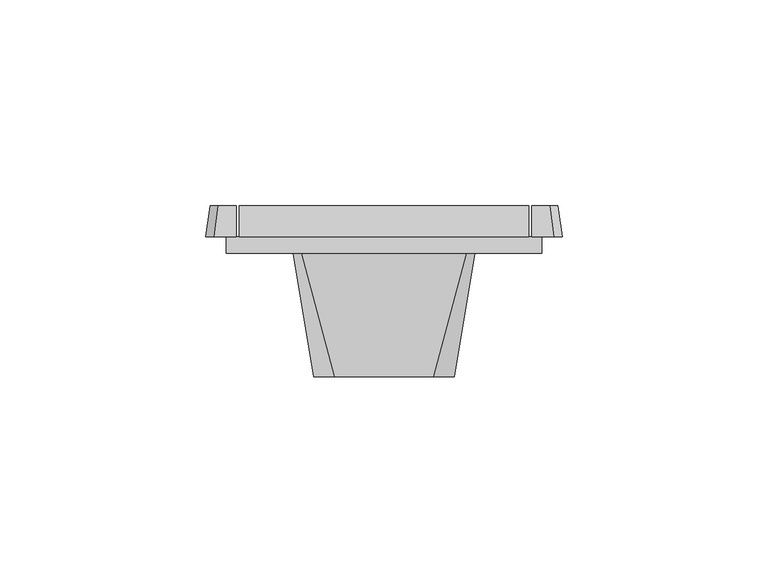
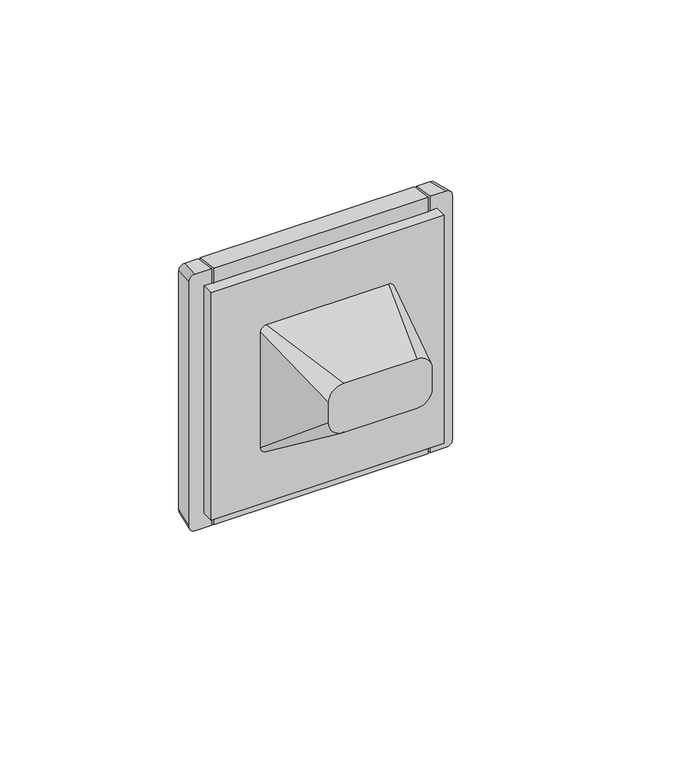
"""IFC4 building model written with IfcOpenShell, lengths in millimetres: proxy geometry, IEK_Forte&Piano_Розекта 1гн : 230 В PE+шт._FP113."""

import ifcopenshell
import ifcopenshell.guid

model = None  # the IFC model being written
_history = None  # IfcOwnerHistory: only IFC2X3 demands one
_inside = {}  # id of a spatial element -> (the spatial element, [elements in it])
_under = {}  # id of a project, library or spatial element -> (it, [spatial elements below it])
_declared = {}  # id of a project -> (the project, [libraries it declares])
_typed = {}  # id of a type object -> (the type object, [elements of that type])
_made_of = {}  # id of a material, layer set ... -> (it, [elements and type objects made of it])


def new_model(schema):
    """Start an empty IFC model of exactly this schema.

    Asked for "IFC4X3", IfcOpenShell would pick the latest addendum, in which some entities
    have other attributes; the version numbers below select the first issue.
    IFC2X3 requires an IfcOwnerHistory on every rooted entity: one is made here for all.
    """
    global model, _history
    if schema == "IFC4X3":
        model = ifcopenshell.file(schema_version=(4, 3, 0, 0))
    else:
        model = ifcopenshell.file(schema=schema)
    _inside.clear()
    _under.clear()
    _declared.clear()
    _typed.clear()
    _made_of.clear()
    _history = None
    if model.schema == "IFC2X3":
        org = make("IfcOrganization", Name="unknown")
        user = make(
            "IfcPersonAndOrganization",
            ThePerson=make("IfcPerson", FamilyName="unknown"),
            TheOrganization=org,
        )
        app = make(
            "IfcApplication",
            ApplicationDeveloper=org,
            Version="unknown",
            ApplicationFullName="unknown",
            ApplicationIdentifier="unknown",
        )
        _history = make(
            "IfcOwnerHistory",
            OwningUser=user,
            OwningApplication=app,
            ChangeAction="ADDED",
            CreationDate=0,
        )
    return model


def make(cls, **values):
    """One entity of the class cls with the attributes given. An attribute that is None is left unset."""
    return model.create_entity(
        cls, **{name: value for name, value in values.items() if value is not None}
    )


def rooted(cls, **values):
    """An entity with a GlobalId (a new one), such as an element, a storey or a relation."""
    return make(cls, GlobalId=ifcopenshell.guid.new(), OwnerHistory=_history, **values)


def si_unit(unit_type, name, prefix=None):
    """IfcSIUnit, for example si_unit("LENGTHUNIT", "METRE", prefix="MILLI")."""
    return make("IfcSIUnit", UnitType=unit_type, Prefix=prefix, Name=name)


def assignment(units):
    """IfcUnitAssignment: the units of a project."""
    return None if units is None else make("IfcUnitAssignment", Units=units)


def point(xyz):
    """IfcCartesianPoint."""
    return None if xyz is None else make("IfcCartesianPoint", Coordinates=xyz)


def direction(xyz):
    """IfcDirection."""
    return None if xyz is None else make("IfcDirection", DirectionRatios=xyz)


def frame(location, z_axis=None, x_axis=None):
    """IfcAxis2Placement3D, a coordinate frame: its origin and axes. An axis left out is left unset."""
    return make(
        "IfcAxis2Placement3D",
        Location=point(location),
        Axis=direction(z_axis),
        RefDirection=direction(x_axis),
    )


def frame_2d(location, x_axis=None):
    """IfcAxis2Placement2D, a coordinate frame in the plane: its origin and x axis."""
    return make(
        "IfcAxis2Placement2D", Location=point(location), RefDirection=direction(x_axis)
    )


def origin():
    """The frame at (0, 0, 0) with its axes left unset."""
    return frame((0.0, 0.0, 0.0))


def origin_2d():
    """The frame at (0, 0) in the plane with its x axis left unset."""
    return frame_2d((0.0, 0.0))


def place(relative_to, where):
    """IfcLocalPlacement: puts the frame where relative to a parent placement (None: the world)."""
    return make(
        "IfcLocalPlacement", PlacementRelTo=relative_to, RelativePlacement=where
    )


def context(
    kind, dimensions, precision=None, world=None, true_north=None, identifier=None
):
    """IfcGeometricRepresentationContext, for example the 3D "Model" context."""
    return make(
        "IfcGeometricRepresentationContext",
        ContextIdentifier=identifier,
        ContextType=kind,
        CoordinateSpaceDimension=dimensions,
        Precision=precision,
        WorldCoordinateSystem=world,
        TrueNorth=true_north,
    )


def project(units=None, contexts=None):
    """IfcProject with its units and contexts."""
    return rooted(
        "IfcProject",
        Name="project",
        RepresentationContexts=contexts,
        UnitsInContext=assignment(units),
    )


def spatial(cls, under=None, at=None, **own):
    """A site, building, storey or space (cls), placed at a placement, below another one or the project."""
    s = rooted(cls, ObjectPlacement=at, **own)
    if under is not None:
        _under.setdefault(under.id(), (under, []))[1].append(s)
    return s


def polyline(points):
    """IfcPolyline through the points."""
    return make("IfcPolyline", Points=[point(p) for p in points])


def circle_curve(where, radius):
    """IfcCircle in the frame where."""
    return make("IfcCircle", Position=where, Radius=radius)


def ellipse_curve(where, semi_axis1, semi_axis2):
    """IfcEllipse in the frame where."""
    return make(
        "IfcEllipse", Position=where, SemiAxis1=semi_axis1, SemiAxis2=semi_axis2
    )


def trimmed(basis, trim1, trim2, sense, master):
    """IfcTrimmedCurve: the piece of a basis curve between two trims."""
    return make(
        "IfcTrimmedCurve",
        BasisCurve=basis,
        Trim1=trim1,
        Trim2=trim2,
        SenseAgreement=sense,
        MasterRepresentation=master,
    )


def segment(curve, same_sense, transition):
    """IfcCompositeCurveSegment."""
    return make(
        "IfcCompositeCurveSegment",
        Transition=transition,
        SameSense=same_sense,
        ParentCurve=curve,
    )


def composite_curve(segments, self_intersect=None):
    """IfcCompositeCurve: segments joined end to end."""
    return make("IfcCompositeCurve", Segments=segments, SelfIntersect=self_intersect)


def outline(outer, holes=None, kind="AREA"):
    """IfcArbitraryClosedProfileDef: a profile drawn as a closed curve; with holes, ...WithVoids."""
    if holes is None:
        return make("IfcArbitraryClosedProfileDef", ProfileType=kind, OuterCurve=outer)
    return make(
        "IfcArbitraryProfileDefWithVoids",
        ProfileType=kind,
        OuterCurve=outer,
        InnerCurves=holes,
    )


def extrude(swept, where, along, depth):
    """IfcExtrudedAreaSolid: the profile swept, set in the frame where, extruded along a direction by depth."""
    return make(
        "IfcExtrudedAreaSolid",
        SweptArea=swept,
        Position=where,
        ExtrudedDirection=direction(along),
        Depth=depth,
    )


def shape(context_of_items, identifier, shape_type, items):
    """IfcShapeRepresentation: the items that make up one representation, for example the "Body"."""
    return make(
        "IfcShapeRepresentation",
        ContextOfItems=context_of_items,
        RepresentationIdentifier=identifier,
        RepresentationType=shape_type,
        Items=items,
    )


def source(mapping_origin, context_of_items, identifier, shape_type, items):
    """IfcRepresentationMap: a shape defined once, which mapped items show again and again."""
    return make(
        "IfcRepresentationMap",
        MappingOrigin=mapping_origin,
        MappedRepresentation=shape(context_of_items, identifier, shape_type, items),
    )


def transform(
    local_origin,
    x_axis=None,
    y_axis=None,
    z_axis=None,
    scale=None,
    scale2=None,
    scale3=None,
    uniform=True,
):
    """IfcCartesianTransformationOperator3D, or its non-uniform kind. x_axis, y_axis, z_axis: its Axis1, 2, 3."""
    if uniform:
        return make(
            "IfcCartesianTransformationOperator3D",
            Axis1=direction(x_axis),
            Axis2=direction(y_axis),
            LocalOrigin=point(local_origin),
            Scale=scale,
            Axis3=direction(z_axis),
        )
    return make(
        "IfcCartesianTransformationOperator3DnonUniform",
        Axis1=direction(x_axis),
        Axis2=direction(y_axis),
        LocalOrigin=point(local_origin),
        Scale=scale,
        Axis3=direction(z_axis),
        Scale2=scale2,
        Scale3=scale3,
    )


def mapped(mapping_source, mapping_target):
    """IfcMappedItem: shows the shape of a source again, moved by a transform."""
    return make(
        "IfcMappedItem", MappingSource=mapping_source, MappingTarget=mapping_target
    )


def made_of(thing, what):
    """Note that an element or type object is made of a material, layer set ...; save() writes the relation."""
    if what is not None:
        _made_of.setdefault(what.id(), (what, []))[1].append(thing)
    return thing


def element(
    cls,
    number,
    at=None,
    inside=None,
    cuts=None,
    type_object=None,
    material=None,
    context=None,
    identifier="Body",
    shape_type=None,
    held_by="IfcProductDefinitionShape",
    body=None,
    shapes=None,
    **own,
):
    """One element of the class cls, such as IfcWall. Its Tag is "e" and its number.

    at: its placement. inside: the storey or other place that contains it. cuts: it is an
    opening in that element (IfcRelVoidsElement). A single representation is given by context,
    identifier, shape_type and body (its items); several are given by shapes. held_by: the class
    of the entity that holds the representations. save() writes the other relations.
    """
    e = rooted(cls, Tag="e%d" % number, ObjectPlacement=at, **own)
    if body is not None:
        shapes = [shape(context, identifier, shape_type, body)]
    if shapes is not None:
        e.Representation = make(held_by, Representations=shapes)
    if inside is not None:
        _inside.setdefault(inside.id(), (inside, []))[1].append(e)
    if cuts is not None:
        rooted(
            "IfcRelVoidsElement", RelatingBuildingElement=cuts, RelatedOpeningElement=e
        )
    if type_object is not None:
        _typed.setdefault(type_object.id(), (type_object, []))[1].append(e)
    return made_of(e, material)


def aggregate(whole, parts):
    """IfcRelAggregates: a whole, such as a stair, and the parts it consists of."""
    return rooted("IfcRelAggregates", RelatingObject=whole, RelatedObjects=parts)


def save(model, path):
    """Write the relations noted so far, then the file.

    IfcRelAggregates (storeys below a building ...), IfcRelContainedInSpatialStructure (elements
    in a storey), IfcRelDefinesByType, IfcRelAssociatesMaterial and IfcRelDeclares: one each for
    every whole, place, type object, material and project.
    """
    for whole, parts in _under.values():
        aggregate(whole, parts)
    for where, things in _inside.values():
        rooted(
            "IfcRelContainedInSpatialStructure",
            RelatedElements=things,
            RelatingStructure=where,
        )
    for kind, things in _typed.values():
        rooted("IfcRelDefinesByType", RelatedObjects=things, RelatingType=kind)
    for what, things in _made_of.values():
        rooted("IfcRelAssociatesMaterial", RelatedObjects=things, RelatingMaterial=what)
    for by, libraries in _declared.values():
        rooted("IfcRelDeclares", RelatingContext=by, RelatedDefinitions=libraries)
    model.write(path)


def plane_surface(at):
    """IfcPlane: the flat surface through the origin of the frame at, square to its z axis."""
    return make("IfcPlane", Position=at)


def cylinder_surface(at, radius):
    """IfcCylindricalSurface: all points at the distance radius from the z axis of the frame at."""
    return make("IfcCylindricalSurface", Position=at, Radius=radius)


def revolved_surface(curve, axis_point, axis_direction):
    """IfcSurfaceOfRevolution: the curve turned about the line through axis_point along axis_direction."""
    return make(
        "IfcSurfaceOfRevolution",
        SweptCurve=make("IfcArbitraryOpenProfileDef", ProfileType="CURVE", Curve=curve),
        AxisPosition=make("IfcAxis1Placement", Location=point(axis_point), Axis=direction(axis_direction)),
    )


def extruded_surface(curve, direction_of_extrusion, depth):
    """IfcSurfaceOfLinearExtrusion: the curve pushed along a direction by depth."""
    return make(
        "IfcSurfaceOfLinearExtrusion",
        SweptCurve=make("IfcArbitraryOpenProfileDef", ProfileType="CURVE", Curve=curve),
        ExtrudedDirection=direction(direction_of_extrusion),
        Depth=depth,
    )


def spline_surface(u_degree, v_degree, points, u_multiplicities, v_multiplicities, u_knots, v_knots, weights=None):
    """IfcBSplineSurfaceWithKnots; with weights, IfcRationalBSplineSurfaceWithKnots. points: one row for each step in u."""
    own = dict(
        UDegree=u_degree,
        VDegree=v_degree,
        ControlPointsList=[[point(p) for p in row] for row in points],
        SurfaceForm="UNSPECIFIED",
        UClosed=False,
        VClosed=False,
        SelfIntersect=False,
        UMultiplicities=u_multiplicities,
        VMultiplicities=v_multiplicities,
        UKnots=u_knots,
        VKnots=v_knots,
        KnotSpec="UNSPECIFIED",
    )
    if weights is None:
        return make("IfcBSplineSurfaceWithKnots", **own)
    return make("IfcRationalBSplineSurfaceWithKnots", WeightsData=weights, **own)


def advanced_brep(points, edges, surfaces, faces):
    """IfcAdvancedBrep: a solid bounded by faces that lie on surfaces and meet in shared edges.

    An edge is (start, end): straight between two places in points (the first is 0);
    or (start, end, curve); or (start, end, curve, False) where it runs against its curve.
    A face is (place in surfaces, loops), or (place, loops, False) where it looks against
    its surface's normal. A loop lists edges by number (the first is 1), with a minus sign
    where the edge is run from its end to its start. The first loop is the outer one.
    """
    corners = [point(p) for p in points]
    vertices = [make("IfcVertexPoint", VertexGeometry=c) for c in corners]
    made = []
    for start, end, *more in edges:
        made.append(
            make(
                "IfcEdgeCurve",
                EdgeStart=vertices[start],
                EdgeEnd=vertices[end],
                EdgeGeometry=more[0] if more else make("IfcPolyline", Points=[corners[start], corners[end]]),
                SameSense=more[1] if len(more) > 1 else True,
            )
        )
    hull = []
    for where, loops, *sense in faces:
        bounds = []
        for j, loop in enumerate(loops):
            ring = [make("IfcOrientedEdge", EdgeElement=made[abs(k) - 1], Orientation=k > 0) for k in loop]
            bounds.append(
                make(
                    "IfcFaceOuterBound" if j == 0 else "IfcFaceBound",
                    Bound=make("IfcEdgeLoop", EdgeList=ring),
                    Orientation=True,
                )
            )
        hull.append(make("IfcAdvancedFace", Bounds=bounds, FaceSurface=surfaces[where], SameSense=sense[0] if sense else True))
    return make("IfcAdvancedBrep", Outer=make("IfcClosedShell", CfsFaces=hull))


def electrical_fixtures_768afa44(model_context):
    return source(origin(), model_context, "Body", "SolidModel", [
        extrude(outline(composite_curve([segment(trimmed(circle_curve(frame_2d((6.4251956, 19.2322549)), 1.2539127), [point((7.6710794, 19.3739261))], [point((5.5330873, 18.3510967))], False, "CARTESIAN"), True, "CONTINUOUS"), segment(polyline([(5.5330873, 18.3510967), (-1.7, 17.5095674), (-1.7, 18.7042816), (7.6710794, 19.3739261)]), True, "CONTINUOUS")], self_intersect=False)), frame((-1.5, 0.0, 0.0), z_axis=(1.0, 0.0, 0.0), x_axis=(0.0, 1.0, 0.0)), (0.0, 0.0, 1.0), 3.0),
        extrude(outline(composite_curve([segment(polyline([(7.6710794, -19.3739261), (-1.7, -18.7042816), (-1.7, -17.5095674), (5.5330873, -18.3510967)]), True, "CONTINUOUS"), segment(trimmed(circle_curve(frame_2d((6.4251956, -19.2322549)), 1.2539127), [point((5.5330873, -18.3510967))], [point((7.6710794, -19.3739261))], False, "CARTESIAN"), True, "CONTINUOUS")], self_intersect=False)), frame((-1.5, 0.0, 0.0), z_axis=(1.0, 0.0, 0.0), x_axis=(0.0, 1.0, 0.0)), (0.0, 0.0, 1.0), 3.0),
        advanced_brep(
        [(-12.0, -30.0, 17.0), (-17.0, -30.0, 12.0), (-17.0, -30.0, 5.0), (-12.0, -30.0, 0.0), (12.0, -30.0, 0.0), (17.0, -30.0, 5.0), (17.0, -30.0, 12.0), (12.0, -30.0, 17.0), (-20.0, 0.0, 22.0), (20.0, 0.0, 22.0), (22.0, 0.0, 20.0), (22.0, 0.0, -20.0), (20.0, 0.0, -22.0), (-20.0, 0.0, -22.0), (-22.0, 0.0, -20.0), (-22.0, 0.0, 20.0), (11.8753617, 0.0, 0.0), (6.3904783, 0.0, 0.0), (-6.3904783, 0.0, 0.0), (-11.8753617, 0.0, 0.0), (3.0105286, 0.0, 0.0), (-3.0105286, 0.0, 0.0), (1.5, 0.0, 19.3739261), (-1.5, 0.0, 19.3739261), (-1.5, 0.0, 17.5095674), (1.5, 0.0, 17.5095674), (1.5, 0.0, -19.3739261), (1.5, 0.0, -17.5095674), (-1.5, 0.0, -17.5095674), (-1.5, 0.0, -19.3739261), (1.5, -6.1233172, -17.5095674), (1.5, -3.5810099, -19.3739261), (-1.5, -3.5810099, -19.3739261), (-1.5, -6.1233172, -17.5095674), (11.8753617, -10.5003369, 0.0), (6.3904783, -10.5003369, 0.0), (-6.3904783, -10.5003369, 0.0), (-11.8753617, -10.5003369, 0.0), (3.0105286, -10.5003369, 0.0), (-3.0105286, -10.5003369, 0.0), (1.5, -10.5003369, 19.3739261), (1.5, -10.5003369, 17.5095674), (-1.5, -10.5003369, 17.5095674), (-1.5, -10.5003369, 19.3739261)],
        [
            (0, 1, circle_curve(frame((-12.0, -30.0, 12.0), z_axis=(0.0, -1.0, 0.0), x_axis=(1.0, 0.0, 0.0)), 5.0)),
            (1, 2),
            (2, 3, circle_curve(frame((-12.0, -30.0, 5.0), z_axis=(0.0, -1.0, 0.0), x_axis=(1.0, 0.0, 0.0)), 5.0)),
            (3, 4),
            (4, 5, circle_curve(frame((12.0, -30.0, 5.0), z_axis=(0.0, -1.0, 0.0), x_axis=(1.0, 0.0, 0.0)), 5.0)),
            (5, 6),
            (6, 7, circle_curve(frame((12.0, -30.0, 12.0), z_axis=(0.0, -1.0, 0.0), x_axis=(1.0, 0.0, 0.0)), 5.0)),
            (7, 0),
            (8, 9),
            (9, 10, circle_curve(frame((20.0, 0.0, 20.0), z_axis=(0.0, 1.0, 0.0), x_axis=(1.0, 0.0, 0.0)), 2.0)),
            (10, 11),
            (11, 12, circle_curve(frame((20.0, 0.0, -20.0), z_axis=(0.0, 1.0, 0.0), x_axis=(1.0, 0.0, 0.0)), 2.0)),
            (12, 13),
            (13, 14, circle_curve(frame((-20.0, 0.0, -20.0), z_axis=(0.0, 1.0, 0.0), x_axis=(1.0, 0.0, 0.0)), 2.0)),
            (14, 15),
            (15, 8, circle_curve(frame((-20.0, 0.0, 20.0), z_axis=(0.0, 1.0, 0.0), x_axis=(1.0, 0.0, 0.0)), 2.0)),
            (16, 17, circle_curve(frame((9.13292, 0.0, 0.0), z_axis=(0.0, -1.0, 0.0), x_axis=(-1.0, 0.0, 0.0)), 2.7424417)),
            (17, 16, circle_curve(frame((9.13292, 0.0, 0.0), z_axis=(0.0, -1.0, 0.0), x_axis=(-1.0, 0.0, 0.0)), 2.7424417)),
            (18, 19, circle_curve(frame((-9.13292, 0.0, 0.0), z_axis=(0.0, -1.0, 0.0), x_axis=(-1.0, 0.0, 0.0)), 2.7424417)),
            (19, 18, circle_curve(frame((-9.13292, 0.0, 0.0), z_axis=(0.0, -1.0, 0.0), x_axis=(-1.0, 0.0, 0.0)), 2.7424417)),
            (20, 21, circle_curve(frame((0.0, 0.0, 0.0), z_axis=(0.0, -1.0, 0.0), x_axis=(-1.0, 0.0, 0.0)), 3.0105286)),
            (21, 20, circle_curve(frame((0.0, 0.0, 0.0), z_axis=(0.0, -1.0, 0.0), x_axis=(-1.0, 0.0, 0.0)), 3.0105286)),
            (22, 23),
            (23, 24),
            (24, 25),
            (25, 22),
            (26, 27),
            (27, 28),
            (28, 29),
            (29, 26),
            (7, 9),
            (8, 0),
            (6, 10),
            (5, 11),
            (4, 12),
            (3, 13),
            (30, 31),
            (31, 32),
            (32, 33),
            (33, 30),
            (2, 14),
            (1, 15),
            (34, 35, circle_curve(frame((9.13292, -10.5003369, 0.0), z_axis=(0.0, 1.0, 0.0), x_axis=(-1.0, 0.0, 0.0)), 2.7424417)),
            (35, 34, circle_curve(frame((9.13292, -10.5003369, 0.0), z_axis=(0.0, 1.0, 0.0), x_axis=(-1.0, 0.0, 0.0)), 2.7424417)),
            (36, 37, circle_curve(frame((-9.13292, -10.5003369, 0.0), z_axis=(0.0, 1.0, 0.0), x_axis=(-1.0, 0.0, 0.0)), 2.7424417)),
            (37, 36, circle_curve(frame((-9.13292, -10.5003369, 0.0), z_axis=(0.0, 1.0, 0.0), x_axis=(-1.0, 0.0, 0.0)), 2.7424417)),
            (38, 39, circle_curve(frame((0.0, -10.5003369, 0.0), z_axis=(0.0, 1.0, 0.0), x_axis=(-1.0, 0.0, 0.0)), 3.0105286)),
            (39, 38, circle_curve(frame((0.0, -10.5003369, 0.0), z_axis=(0.0, 1.0, 0.0), x_axis=(-1.0, 0.0, 0.0)), 3.0105286)),
            (40, 41),
            (41, 42),
            (42, 43),
            (43, 40),
            (35, 17),
            (16, 34),
            (37, 19),
            (18, 36),
            (39, 21),
            (20, 38),
            (43, 23),
            (22, 40),
            (42, 24),
            (41, 25),
            (30, 27),
            (26, 31),
            (33, 28),
            (32, 29),
        ],
        [
            plane_surface(frame((0.0, -30.0, 8.5), z_axis=(0.0, -1.0, 0.0), x_axis=(-1.0, 0.0, 0.0))),
            plane_surface(frame((0.0, 0.0, 0.0), z_axis=(0.0, 1.0, 0.0), x_axis=(-1.0, 0.0, 0.0))),
            plane_surface(frame((0.0, 0.0, 22.0), z_axis=(0.0, -0.16439898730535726, 0.9863939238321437), x_axis=(-1.0, 0.0, 0.0))),
            spline_surface(2, 1, [[(22.0, 0.0, 20.0), (17.0, -30.0, 12.0)], [(22.0, 0.0, 22.0), (17.0, -30.0, 17.0)], [(20.0, 0.0, 22.0), (12.0, -30.0, 17.0)]], [3, 3], [2, 2], [0.0, 1.0], [0.0, 1.0], weights=[[1.0, 1.0], [0.7071067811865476, 0.7071067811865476], [1.0, 1.0]]),
            plane_surface(frame((22.0, 0.0, 0.0), z_axis=(0.9863939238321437, -0.1643989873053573, 0.0), x_axis=(0.0, 0.0, 1.0))),
            spline_surface(2, 1, [[(20.0, 0.0, -22.0), (12.0, -30.0, 0.0)], [(22.0, 0.0, -22.0), (17.0, -30.0, 0.0)], [(22.0, 0.0, -20.0), (17.0, -30.0, 5.0)]], [3, 3], [2, 2], [0.0, 1.0], [0.0, 1.0], weights=[[1.0, 1.0], [0.7071067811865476, 0.7071067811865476], [1.0, 1.0]]),
            plane_surface(frame((0.0, 0.0, -22.0), z_axis=(0.0, -0.591363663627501, -0.8064049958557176), x_axis=(1.0, 0.0, 0.0))),
            spline_surface(2, 1, [[(-22.0, 0.0, -20.0), (-17.0, -30.0, 5.0)], [(-22.0, 0.0, -22.0), (-17.0, -30.0, 0.0)], [(-20.0, 0.0, -22.0), (-12.0, -30.0, 0.0)]], [3, 3], [2, 2], [0.0, 1.0], [0.0, 1.0], weights=[[1.0, 1.0], [0.7071067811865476, 0.7071067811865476], [1.0, 1.0]]),
            plane_surface(frame((-22.0, 0.0, 0.0), z_axis=(-0.9863939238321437, -0.1643989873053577, 0.0), x_axis=(0.0, 0.0, -1.0))),
            spline_surface(2, 1, [[(-20.0, 0.0, 22.0), (-12.0, -30.0, 17.0)], [(-22.0, 0.0, 22.0), (-17.0, -30.0, 17.0)], [(-22.0, 0.0, 20.0), (-17.0, -30.0, 12.0)]], [3, 3], [2, 2], [0.0, 1.0], [0.0, 1.0], weights=[[1.0, 1.0], [0.7071067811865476, 0.7071067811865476], [1.0, 1.0]]),
            plane_surface(frame((6.3904783, -10.5003369, 0.0), z_axis=(0.0, 1.0, 0.0), x_axis=(0.0, 0.0, -1.0))),
            revolved_surface(polyline([(6.3904783, 0.0, 0.0), (6.3904783, -10.5003369, 0.0)]), (9.13292, -10.5003369, 0.0), (0.0, 1.0, 0.0)),
            revolved_surface(polyline([(-11.875361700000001, 0.0, 0.0), (-11.875361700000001, -10.5003369, 0.0)]), (-9.13292, 0.0, 0.0), (0.0, 1.0, 0.0)),
            revolved_surface(polyline([(-3.0105286, 0.0, 0.0), (-3.0105286, -10.5003369, 0.0)]), (0.0, 0.0, 0.0), (0.0, 1.0, 0.0)),
            plane_surface(frame((-1.5, 1.0, 19.3739261), z_axis=(0.0, 0.0, -1.0), x_axis=(0.0, -1.0, 0.0))),
            plane_surface(frame((-1.5, 1.0, 17.5095674), z_axis=(1.0, 0.0, 0.0), x_axis=(0.0, -1.0, 0.0))),
            plane_surface(frame((1.5, 1.0, 17.5095674), z_axis=(0.0, 0.0, 1.0), x_axis=(0.0, -1.0, 0.0))),
            plane_surface(frame((1.5, 1.0, 19.3739261), z_axis=(-1.0, 0.0, 0.0), x_axis=(0.0, -1.0, 0.0))),
            plane_surface(frame((1.5, 1.0, -17.5095674), z_axis=(-1.0, 0.0, 0.0), x_axis=(0.0, -1.0, 0.0))),
            plane_surface(frame((-1.5, 1.0, -17.5095674), z_axis=(0.0, 0.0, -1.0), x_axis=(0.0, -1.0, 0.0))),
            plane_surface(frame((-1.5, 1.0, -19.3739261), z_axis=(1.0, 0.0, 0.0), x_axis=(0.0, -1.0, 0.0))),
            plane_surface(frame((1.5, 1.0, -19.3739261), z_axis=(0.0, 0.0, 1.0), x_axis=(0.0, -1.0, 0.0))),
        ],
        [
            (0, [[1, 2, 3, 4, 5, 6, 7, 8]]),
            (1, [[9, 10, 11, 12, 13, 14, 15, 16], [17, 18], [19, 20], [21, 22], [23, 24, 25, 26], [27, 28, 29, 30]]),
            (2, [[-8, 31, -9, 32]]),
            (3, [[-7, 33, -10, -31]]),
            (4, [[-6, 34, -11, -33]]),
            (5, [[-5, 35, -12, -34]]),
            (6, [[-4, 36, -13, -35], [37, 38, 39, 40]]),
            (7, [[-3, 41, -14, -36]]),
            (8, [[-2, 42, -15, -41]]),
            (9, [[-1, -32, -16, -42]]),
            (10, [[43, 44]]),
            (10, [[45, 46]]),
            (10, [[47, 48]]),
            (10, [[49, 50, 51, 52]]),
            (11, [[-44, 53, -17, 54]]),
            (11, [[-43, -54, -18, -53]]),
            (12, [[-46, 55, -19, 56]]),
            (12, [[-45, -56, -20, -55]]),
            (13, [[-48, 57, -21, 58]]),
            (13, [[-47, -58, -22, -57]]),
            (14, [[-52, 59, -23, 60]]),
            (15, [[-51, 61, -24, -59]]),
            (16, [[-50, 62, -25, -61]]),
            (17, [[-49, -60, -26, -62]]),
            (18, [[63, -27, 64, -37]]),
            (19, [[-63, -40, 65, -28]]),
            (20, [[-65, -39, 66, -29]]),
            (21, [[-66, -38, -64, -30]]),
        ],
    ),
        advanced_brep(
        [(0.0, 0.078125, -2.8986917), (0.0, 0.078125, 2.8986917), (0.0, 0.8649081, 0.0), (0.0, -1.7, -2.8986917), (0.0, -1.7, 2.8986917), (0.0, -1.7, 0.0)],
        [
            (0, 1, circle_curve(frame((0.0, 0.078125, 0.0), z_axis=(0.0, 1.0, 0.0), x_axis=(0.0, 0.0, 1.0)), 2.8986917)),
            (1, 2, ellipse_curve(frame((0.0, 0.078125, 0.15625), z_axis=(-1.0, 0.0, 0.0), x_axis=(0.0, 0.0, 1.0)), 2.7424417, 0.7880633)),
            (2, 0, ellipse_curve(frame((0.0, 0.078125, -0.15625), z_axis=(-1.0, 0.0, 0.0), x_axis=(0.0, 0.0, -1.0)), 2.7424417, 0.7880633)),
            (1, 0, circle_curve(frame((0.0, 0.078125, 0.0), z_axis=(0.0, 1.0, 0.0), x_axis=(0.0, 0.0, 1.0)), 2.8986917)),
            (3, 4, circle_curve(frame((0.0, -1.7, 0.0), z_axis=(0.0, 1.0, 0.0), x_axis=(0.0, 0.0, 1.0)), 2.8986917)),
            (4, 1),
            (0, 3),
            (4, 3, circle_curve(frame((0.0, -1.7, 0.0), z_axis=(0.0, 1.0, 0.0), x_axis=(0.0, 0.0, 1.0)), 2.8986917)),
            (5, 4),
            (3, 5),
        ],
        [
            revolved_surface(trimmed(ellipse_curve(frame((0.0, 0.078125, 0.15625), z_axis=(1.0, 0.0, 0.0), x_axis=(0.0, 0.0, 1.0)), 2.7424417, 0.7880633), [point((0.0, 0.8649081, 0.0))], [point((0.0, 0.078125, 2.8986917))], True, "CARTESIAN"), (0.0, -3.0228134, 0.0), (0.0, -1.0, 0.0)),
            cylinder_surface(frame((0.0, -3.0228134, 0.0), z_axis=(0.0, -1.0, 0.0), x_axis=(0.0, 0.0, 1.0)), 2.8986917),
            plane_surface(frame((0.0, -1.7, 0.0), z_axis=(0.0, -1.0, 0.0), x_axis=(0.0, 0.0, 1.0))),
        ],
        [
            (0, [[1, 2, 3]]),
            (0, [[4, -3, -2]]),
            (1, [[5, 6, -1, 7]]),
            (1, [[8, -7, -4, -6]]),
            (2, [[9, -5, 10]]),
            (2, [[-10, -8, -9]]),
        ],
    ),
        extrude(outline(composite_curve([segment(polyline([(3.2980592, -16.488464), (11.3194768, -16.488464)]), True, "CONTINUOUS"), segment(trimmed(circle_curve(origin_2d(), 20.0), [point((11.3194768, -16.488464))], [point((3.2980592, -19.7261959))], False, "CARTESIAN"), True, "CONTINUOUS"), segment(polyline([(3.2980592, -19.7261959), (3.2980592, -16.488464)]), True, "CONTINUOUS")], self_intersect=False)), frame((0.0, 0.0, 0.0), z_axis=(0.0, 1.0, 0.0), x_axis=(0.0, 0.0, 1.0)), (0.0, 0.0, 1.0), 8.0),
        extrude(outline(composite_curve([segment(polyline([(-3.2980592, -16.488464), (-3.2980592, -19.7261959)]), True, "CONTINUOUS"), segment(trimmed(circle_curve(origin_2d(), 20.0), [point((-3.2980592, -19.7261959))], [point((-11.3194768, -16.488464))], False, "CARTESIAN"), True, "CONTINUOUS"), segment(polyline([(-11.3194768, -16.488464), (-3.2980592, -16.488464)]), True, "CONTINUOUS")], self_intersect=False)), frame((0.0, 0.0, 0.0), z_axis=(0.0, 1.0, 0.0), x_axis=(0.0, 0.0, 1.0)), (0.0, 0.0, 1.0), 8.0),
        extrude(outline(composite_curve([segment(polyline([(3.2980592, 16.488464), (3.2980592, 19.7261959)]), True, "CONTINUOUS"), segment(trimmed(circle_curve(origin_2d(), 20.0), [point((3.2980592, 19.7261959))], [point((11.3194768, 16.488464))], False, "CARTESIAN"), True, "CONTINUOUS"), segment(polyline([(11.3194768, 16.488464), (3.2980592, 16.488464)]), True, "CONTINUOUS")], self_intersect=False)), frame((0.0, 0.0, 0.0), z_axis=(0.0, 1.0, 0.0), x_axis=(0.0, 0.0, 1.0)), (0.0, 0.0, 1.0), 8.0),
        extrude(outline(composite_curve([segment(polyline([(-3.2980592, 16.488464), (-11.3194768, 16.488464)]), True, "CONTINUOUS"), segment(trimmed(circle_curve(origin_2d(), 20.0), [point((-11.3194768, 16.488464))], [point((-3.2980592, 19.7261959))], False, "CARTESIAN"), True, "CONTINUOUS"), segment(polyline([(-3.2980592, 19.7261959), (-3.2980592, 16.488464)]), True, "CONTINUOUS")], self_intersect=False)), frame((0.0, 0.0, 0.0), z_axis=(0.0, 1.0, 0.0), x_axis=(0.0, 0.0, 1.0)), (0.0, 0.0, 1.0), 8.0),
        advanced_brep(
        [(35.2, 11.5, 43.5), (35.2, 4.0, 44.5), (35.2, 4.0, 39.5), (35.2, 4.0, -39.5), (35.2, 4.0, -44.5), (35.2, 11.5, -43.5), (-35.2, 11.5, 43.5), (-35.2, 11.5, -43.5), (-35.2, 4.0, -44.5), (-35.2, 4.0, -39.5), (-35.2, 4.0, 39.5), (-35.2, 4.0, 44.5), (-20.0, 11.5, 0.0), (20.0, 11.5, 0.0), (-20.0, 0.0, 0.0), (20.0, 0.0, 0.0), (38.25, 4.0, 39.5), (38.25, 4.0, -39.5), (-38.25, 4.0, -39.5), (-38.25, 4.0, 39.5), (-38.25, 0.0, 39.5), (-38.25, 0.0, -39.5), (38.25, 0.0, -39.5), (38.25, 0.0, 39.5)],
        [
            (0, 1),
            (1, 2),
            (2, 3),
            (3, 4),
            (4, 5),
            (5, 0),
            (6, 7),
            (7, 8),
            (8, 9),
            (9, 10),
            (10, 11),
            (11, 6),
            (0, 6),
            (11, 1),
            (10, 2),
            (8, 4),
            (3, 9),
            (7, 5),
            (12, 13, circle_curve(frame((0.0, 11.5, 0.0), z_axis=(0.0, -1.0, 0.0), x_axis=(-1.0, 0.0, 0.0)), 20.0)),
            (13, 12, circle_curve(frame((0.0, 11.5, 0.0), z_axis=(0.0, -1.0, 0.0), x_axis=(-1.0, 0.0, 0.0)), 20.0)),
            (12, 14),
            (14, 15, circle_curve(frame((0.0, 0.0, 0.0), z_axis=(0.0, -1.0, 0.0), x_axis=(-1.0, 0.0, 0.0)), 20.0)),
            (15, 13),
            (15, 14, circle_curve(frame((0.0, 0.0, 0.0), z_axis=(0.0, -1.0, 0.0), x_axis=(-1.0, 0.0, 0.0)), 20.0)),
            (16, 17),
            (17, 3),
            (2, 16),
            (18, 19),
            (19, 10),
            (9, 18),
            (20, 21),
            (21, 22),
            (22, 23),
            (23, 20),
            (18, 21),
            (20, 19),
            (17, 22),
            (16, 23),
        ],
        [
            plane_surface(frame((35.2, 4.0, 44.5), z_axis=(1.0, 0.0, 0.0), x_axis=(0.0, -0.9912279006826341, 0.13216372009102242))),
            plane_surface(frame((-35.2, 4.0, 44.5), z_axis=(-1.0, 0.0, 0.0), x_axis=(0.0, 0.9912279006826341, -0.13216372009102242))),
            plane_surface(frame((35.2, 11.5, 43.5), z_axis=(0.0, 0.13216372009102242, 0.9912279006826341), x_axis=(-1.0, 0.0, 0.0))),
            plane_surface(frame((35.2, 4.0, 44.5), z_axis=(0.0, -1.0, 0.0), x_axis=(-1.0, 0.0, 0.0))),
            plane_surface(frame((35.2, 4.0, -44.5), z_axis=(0.0, 0.1321637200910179, -0.9912279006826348), x_axis=(-1.0, 0.0, 0.0))),
            plane_surface(frame((35.2, 11.5, -43.5), z_axis=(0.0, 1.0, 0.0), x_axis=(-1.0, 0.0, 0.0))),
            revolved_surface(polyline([(-20.0, 11.5, 0.0), (-20.0, 0.0, 0.0)]), (0.0, 0.0, 0.0), (0.0, 1.0, 0.0)),
            plane_surface(frame((-38.25, 4.0, 39.5), z_axis=(0.0, 1.0, 0.0), x_axis=(0.0, 0.0, 1.0))),
            plane_surface(frame((-38.25, 0.0, 39.5), z_axis=(0.0, -1.0, 0.0), x_axis=(0.0, 0.0, -1.0))),
            plane_surface(frame((-38.25, 0.0, 39.5), z_axis=(-1.0, 0.0, 0.0), x_axis=(0.0, 1.0, 0.0))),
            plane_surface(frame((-38.25, 0.0, -39.5), z_axis=(0.0, 0.0, -1.0), x_axis=(0.0, 1.0, 0.0))),
            plane_surface(frame((38.25, 0.0, -39.5), z_axis=(1.0, 0.0, 0.0), x_axis=(0.0, 1.0, 0.0))),
            plane_surface(frame((38.25, 0.0, 39.5), z_axis=(0.0, 0.0, 1.0), x_axis=(0.0, 1.0, 0.0))),
        ],
        [
            (0, [[1, 2, 3, 4, 5, 6]]),
            (1, [[7, 8, 9, 10, 11, 12]]),
            (2, [[-1, 13, -12, 14]]),
            (3, [[-14, -11, 15, -2]]),
            (3, [[16, -4, 17, -9]]),
            (4, [[-5, -16, -8, 18]]),
            (5, [[-6, -18, -7, -13], [19, 20]]),
            (6, [[21, 22, 23, -19]]),
            (6, [[-21, -20, -23, 24]]),
            (7, [[25, 26, -3, 27]]),
            (7, [[28, 29, -10, 30]]),
            (8, [[31, 32, 33, 34], [-22, -24]]),
            (9, [[-28, 35, -31, 36]]),
            (10, [[-32, -35, -30, -17, -26, 37]]),
            (11, [[-25, 38, -33, -37]]),
            (12, [[-34, -38, -27, -15, -29, -36]]),
        ],
    ),
        advanced_brep(
        [(35.8576533, 11.5, 43.5), (35.8576533, 11.5, -43.5), (35.8576533, 4.0, -44.5), (35.8576533, 4.0, 44.5), (40.25, 11.5, 43.5), (42.25, 11.5, 41.5), (42.25, 11.5, -41.5), (40.25, 11.5, -43.5), (41.25, 4.0, -44.5), (43.25, 4.0, -42.5), (43.25, 4.0, 42.5), (41.25, 4.0, 44.5)],
        [
            (0, 1),
            (1, 2),
            (2, 3),
            (3, 0),
            (4, 5, circle_curve(frame((40.25, 11.5, 41.5), z_axis=(0.0, 1.0, 0.0), x_axis=(-1.0, 0.0, 0.0)), 2.0)),
            (5, 6),
            (6, 7, circle_curve(frame((40.25, 11.5, -41.5), z_axis=(0.0, 1.0, 0.0), x_axis=(-1.0, 0.0, 0.0)), 2.0)),
            (7, 1),
            (0, 4),
            (8, 9, circle_curve(frame((41.25, 4.0, -42.5), z_axis=(0.0, -1.0, 0.0), x_axis=(-1.0, 0.0, 0.0)), 2.0)),
            (9, 10),
            (10, 11, circle_curve(frame((41.25, 4.0, 42.5), z_axis=(0.0, -1.0, 0.0), x_axis=(-1.0, 0.0, 0.0)), 2.0)),
            (11, 3),
            (2, 8),
            (11, 4),
            (10, 5),
            (9, 6),
            (8, 7),
        ],
        [
            plane_surface(frame((35.8576533, 11.5, 44.5), z_axis=(-1.0, 0.0, 0.0), x_axis=(0.0, -1.0, 0.0))),
            plane_surface(frame((0.0, 11.5, 0.0), z_axis=(0.0, 1.0, 0.0), x_axis=(1.0, 0.0, 0.0))),
            plane_surface(frame((0.0, 4.0, 0.0), z_axis=(0.0, -1.0, 0.0), x_axis=(1.0, 0.0, 0.0))),
            plane_surface(frame((0.0, 4.0, 44.5), z_axis=(0.0, 0.13216372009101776, 0.9912279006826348), x_axis=(1.0, 0.0, 0.0))),
            extruded_surface(trimmed(circle_curve(frame((41.25, 4.0, 42.5), z_axis=(0.0, 1.0, 0.0), x_axis=(-1.0, 0.0, 0.0)), 2.0), [point((41.25, 4.0, 44.5))], [point((43.25, 4.0, 42.5))], True, "CARTESIAN"), (-1.0, 7.5, -1.0), 7.632168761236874),
            plane_surface(frame((43.25, 4.0, 0.0), z_axis=(0.9912279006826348, 0.13216372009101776, 0.0), x_axis=(0.0, 0.0, -1.0))),
            extruded_surface(trimmed(circle_curve(frame((41.25, 4.0, -42.5), z_axis=(0.0, 1.0, 0.0), x_axis=(-1.0, 0.0, 0.0)), 2.0), [point((43.25, 4.0, -42.5))], [point((41.25, 4.0, -44.5))], True, "CARTESIAN"), (-1.0, 7.5, 1.0), 7.632168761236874),
            plane_surface(frame((0.0, 4.0, -44.5), z_axis=(0.0, 0.13216372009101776, -0.9912279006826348), x_axis=(-1.0, 0.0, 0.0))),
        ],
        [
            (0, [[1, 2, 3, 4]]),
            (1, [[5, 6, 7, 8, -1, 9]]),
            (2, [[10, 11, 12, 13, -3, 14]]),
            (3, [[15, -9, -4, -13]]),
            (4, [[-5, -15, -12, 16]]),
            (5, [[-6, -16, -11, 17]]),
            (6, [[-7, -17, -10, 18]]),
            (7, [[-18, -14, -2, -8]]),
        ],
    ),
        advanced_brep(
        [(-35.8576533, 11.5, -43.5), (-35.8576533, 11.5, 43.5), (-35.8576533, 4.0, 44.5), (-35.8576533, 4.0, -44.5), (-40.25, 11.5, -43.5), (-42.25, 11.5, -41.5), (-42.25, 11.5, 41.5), (-40.25, 11.5, 43.5), (-41.25, 4.0, 44.5), (-43.25, 4.0, 42.5), (-43.25, 4.0, -42.5), (-41.25, 4.0, -44.5)],
        [
            (0, 1),
            (1, 2),
            (2, 3),
            (3, 0),
            (4, 5, circle_curve(frame((-40.25, 11.5, -41.5), z_axis=(0.0, 1.0, 0.0), x_axis=(-1.0, 0.0, 0.0)), 2.0)),
            (5, 6),
            (6, 7, circle_curve(frame((-40.25, 11.5, 41.5), z_axis=(0.0, 1.0, 0.0), x_axis=(-1.0, 0.0, 0.0)), 2.0)),
            (7, 1),
            (0, 4),
            (8, 9, circle_curve(frame((-41.25, 4.0, 42.5), z_axis=(0.0, -1.0, 0.0), x_axis=(-1.0, 0.0, 0.0)), 2.0)),
            (9, 10),
            (10, 11, circle_curve(frame((-41.25, 4.0, -42.5), z_axis=(0.0, -1.0, 0.0), x_axis=(-1.0, 0.0, 0.0)), 2.0)),
            (11, 3),
            (2, 8),
            (7, 8),
            (11, 4),
            (10, 5),
            (9, 6),
        ],
        [
            plane_surface(frame((-35.8576533, 11.5, -44.5), z_axis=(1.0, 0.0, 0.0), x_axis=(0.0, -1.0, 0.0))),
            plane_surface(frame((0.0, 11.5, 0.0), z_axis=(0.0, 1.0, 0.0), x_axis=(1.0, 0.0, 0.0))),
            plane_surface(frame((0.0, 4.0, 0.0), z_axis=(0.0, -1.0, 0.0), x_axis=(1.0, 0.0, 0.0))),
            plane_surface(frame((0.0, 4.0, 44.5), z_axis=(0.0, 0.13216372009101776, 0.9912279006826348), x_axis=(1.0, 0.0, 0.0))),
            plane_surface(frame((0.0, 4.0, -44.5), z_axis=(0.0, 0.13216372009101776, -0.9912279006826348), x_axis=(-1.0, 0.0, 0.0))),
            extruded_surface(trimmed(circle_curve(frame((-41.25, 4.0, -42.5), z_axis=(0.0, 1.0, 0.0), x_axis=(-1.0, 0.0, 0.0)), 2.0), [point((-41.25, 4.0, -44.5))], [point((-43.25, 4.0, -42.5))], True, "CARTESIAN"), (1.0, 7.5, 1.0), 7.632168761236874),
            plane_surface(frame((-43.25, 4.0, 0.0), z_axis=(-0.9912279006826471, 0.13216372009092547, 0.0), x_axis=(0.0, 0.0, 1.0))),
            extruded_surface(trimmed(circle_curve(frame((-41.25, 4.0, 42.5), z_axis=(0.0, 1.0, 0.0), x_axis=(-1.0, 0.0, 0.0)), 2.0), [point((-43.25, 4.0, 42.5))], [point((-41.25, 4.0, 44.5))], True, "CARTESIAN"), (1.0, 7.5, -1.0), 7.632168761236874),
        ],
        [
            (0, [[1, 2, 3, 4]]),
            (1, [[5, 6, 7, 8, -1, 9]]),
            (2, [[10, 11, 12, 13, -3, 14]]),
            (3, [[15, -14, -2, -8]]),
            (4, [[16, -9, -4, -13]]),
            (5, [[-5, -16, -12, 17]]),
            (6, [[-6, -17, -11, 18]]),
            (7, [[-7, -18, -10, -15]]),
        ],
    ),
    ])


if __name__ == "__main__":
    model = new_model("IFC4")
    model_context = context("Model", 3, world=origin())
    ifc_project = project(units=[si_unit("LENGTHUNIT", "METRE", prefix="MILLI")], contexts=[model_context])
    site = spatial("IfcSite", under=ifc_project)
    building = spatial("IfcBuilding", under=site)
    placement = place(None, origin())
    electrical_fixtures_shape = electrical_fixtures_768afa44(model_context)
    element("IfcBuildingElementProxy", 1, Name="IEK_Forte&Piano_Розекта 1гн : 230 В PE+шт._FP113", ObjectType="IEK_Forte&Piano_Розекта 1гн : 230 В PE+шт._FP113", at=placement, inside=building, context=model_context, shape_type="MappedRepresentation", body=[
        mapped(electrical_fixtures_shape, transform((0.0, 0.0, 0.0), x_axis=(1.0, 0.0, 0.0), y_axis=(0.0, 1.0, 0.0), z_axis=(0.0, 0.0, 1.0))),
    ])
    save(model, "model.ifc")
